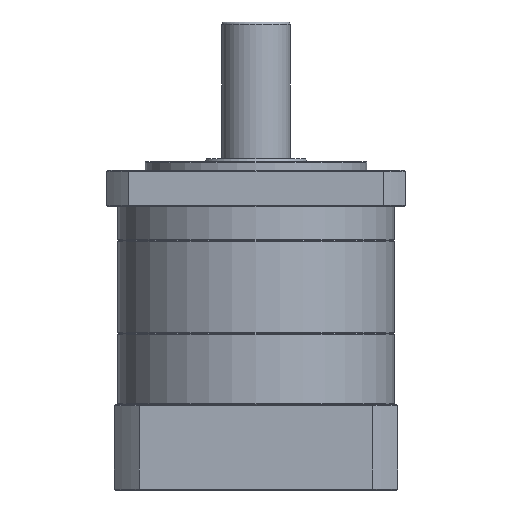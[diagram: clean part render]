
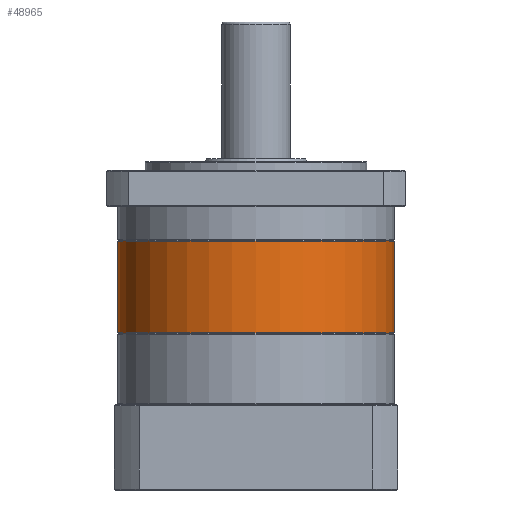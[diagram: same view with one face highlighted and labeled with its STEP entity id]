
A CAD part, front view. The second image highlights one B-rep face of the part: STEP entity #48965.
In plain terms, the highlighted cylindrical face has radius 81 mm (diameter 162 mm), a partial arc.
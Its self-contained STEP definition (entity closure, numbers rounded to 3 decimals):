
#294 = EDGE_CURVE ( 'NONE', #80380, #49500, #73637, .T. ) ;
#3114 = AXIS2_PLACEMENT_3D ( 'NONE', #40687, #63136, #18021 ) ;
#4312 = DIRECTION ( 'NONE',  ( 0., 0., 1. ) ) ;
#7717 = CARTESIAN_POINT ( 'NONE',  ( 267.54, 60.524, 8.655 ) ) ;
#13020 = DIRECTION ( 'NONE',  ( 0., 0., -1. ) ) ;
#14556 = EDGE_CURVE ( 'NONE', #68476, #43321, #18260, .T. ) ;
#15398 = DIRECTION ( 'NONE',  ( 0., 0., 1. ) ) ;
#15555 = CARTESIAN_POINT ( 'NONE',  ( 105.54, 60.524, 62.655 ) ) ;
#16236 = EDGE_LOOP ( 'NONE', ( #63657, #71894, #71729, #21823, #80056 ) ) ;
#18021 = DIRECTION ( 'NONE',  ( 0., 1., 0. ) ) ;
#18260 = CIRCLE ( 'NONE', #43286, 81. ) ;
#19694 = EDGE_CURVE ( 'NONE', #49500, #32712, #24472, .T. ) ;
#21823 = ORIENTED_EDGE ( 'NONE', *, *, #30483, .T. ) ;
#24472 = CIRCLE ( 'NONE', #3114, 81. ) ;
#27249 = LINE ( 'NONE', #41344, #63400 ) ;
#28000 = LINE ( 'NONE', #7717, #78776 ) ;
#29324 = CARTESIAN_POINT ( 'NONE',  ( 267.54, 60.524, 9.155 ) ) ;
#30483 = EDGE_CURVE ( 'NONE', #80380, #68476, #28000, .T. ) ;
#32712 = VERTEX_POINT ( 'NONE', #47752 ) ;
#36576 = CARTESIAN_POINT ( 'NONE',  ( 186.54, 60.524, 9.155 ) ) ;
#38985 = CARTESIAN_POINT ( 'NONE',  ( 186.54, -20.476, 9.155 ) ) ;
#40687 = CARTESIAN_POINT ( 'NONE',  ( 186.54, 60.524, 9.155 ) ) ;
#41097 = CARTESIAN_POINT ( 'NONE',  ( 186.54, 60.524, 8.655 ) ) ;
#41344 = CARTESIAN_POINT ( 'NONE',  ( 105.54, 60.524, 8.655 ) ) ;
#43286 = AXIS2_PLACEMENT_3D ( 'NONE', #82127, #97433, #51442 ) ;
#43321 = VERTEX_POINT ( 'NONE', #15555 ) ;
#45035 = DIRECTION ( 'NONE',  ( 0., 1., 0. ) ) ;
#47752 = CARTESIAN_POINT ( 'NONE',  ( 105.54, 60.524, 9.155 ) ) ;
#48965 = ADVANCED_FACE ( 'NONE', ( #98986 ), #96467, .T. ) ;
#49500 = VERTEX_POINT ( 'NONE', #38985 ) ;
#51442 = DIRECTION ( 'NONE',  ( 1., 0., 0. ) ) ;
#63136 = DIRECTION ( 'NONE',  ( 0., 0., -1. ) ) ;
#63400 = VECTOR ( 'NONE', #79425, 1000. ) ;
#63657 = ORIENTED_EDGE ( 'NONE', *, *, #84976, .F. ) ;
#64460 = CARTESIAN_POINT ( 'NONE',  ( 267.54, 60.524, 62.655 ) ) ;
#64525 = DIRECTION ( 'NONE',  ( 1., 0., 0. ) ) ;
#68476 = VERTEX_POINT ( 'NONE', #64460 ) ;
#71729 = ORIENTED_EDGE ( 'NONE', *, *, #294, .F. ) ;
#71894 = ORIENTED_EDGE ( 'NONE', *, *, #19694, .F. ) ;
#73637 = CIRCLE ( 'NONE', #76140, 81. ) ;
#76140 = AXIS2_PLACEMENT_3D ( 'NONE', #36576, #13020, #45035 ) ;
#78776 = VECTOR ( 'NONE', #15398, 1000. ) ;
#79425 = DIRECTION ( 'NONE',  ( 0., 0., 1. ) ) ;
#80056 = ORIENTED_EDGE ( 'NONE', *, *, #14556, .T. ) ;
#80380 = VERTEX_POINT ( 'NONE', #29324 ) ;
#82127 = CARTESIAN_POINT ( 'NONE',  ( 186.54, 60.524, 62.655 ) ) ;
#84976 = EDGE_CURVE ( 'NONE', #32712, #43321, #27249, .T. ) ;
#91369 = AXIS2_PLACEMENT_3D ( 'NONE', #41097, #4312, #64525 ) ;
#96467 = CYLINDRICAL_SURFACE ( 'NONE', #91369, 81. ) ;
#97433 = DIRECTION ( 'NONE',  ( 0., 0., -1. ) ) ;
#98986 = FACE_OUTER_BOUND ( 'NONE', #16236, .T. ) ;
